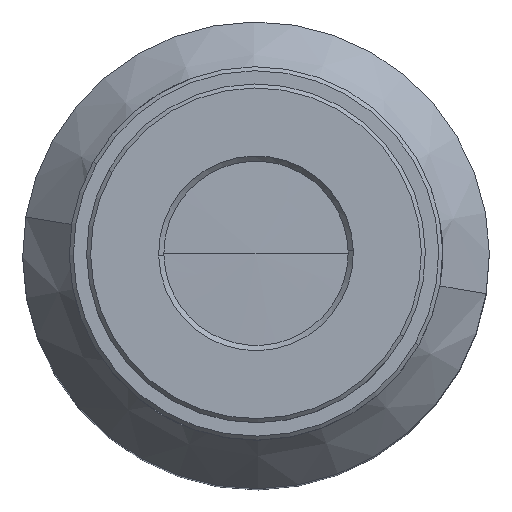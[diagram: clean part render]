
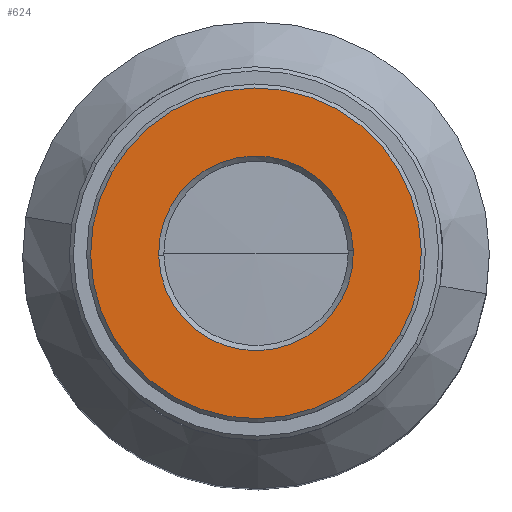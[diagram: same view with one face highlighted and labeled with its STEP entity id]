
A CAD part, top view. The second image highlights one B-rep face of the part: STEP entity #624.
In plain terms, the highlighted planar face has unit normal (0, 0, 1).
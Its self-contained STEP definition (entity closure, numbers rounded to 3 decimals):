
#42 = CIRCLE ( 'NONE', #1463, 7.3 ) ;
#68 = DIRECTION ( 'NONE',  ( 0., 0., -1. ) ) ;
#73 = ORIENTED_EDGE ( 'NONE', *, *, #1201, .T. ) ;
#110 = CARTESIAN_POINT ( 'NONE',  ( 0., 0., 61.125 ) ) ;
#132 = FACE_BOUND ( 'NONE', #1468, .T. ) ;
#198 = ORIENTED_EDGE ( 'NONE', *, *, #756, .T. ) ;
#284 = DIRECTION ( 'NONE',  ( 0., 0., -1. ) ) ;
#285 = CARTESIAN_POINT ( 'NONE',  ( 7.297, 0.2, 61.125 ) ) ;
#317 = CARTESIAN_POINT ( 'NONE',  ( 0., 0., 61.125 ) ) ;
#349 = DIRECTION ( 'NONE',  ( 0., 0., -1. ) ) ;
#357 = AXIS2_PLACEMENT_3D ( 'NONE', #1108, #349, #973 ) ;
#414 = DIRECTION ( 'NONE',  ( -1., -0.027, 0. ) ) ;
#429 = CARTESIAN_POINT ( 'NONE',  ( 10.8, -6.093, 61.125 ) ) ;
#508 = AXIS2_PLACEMENT_3D ( 'NONE', #608, #1605, #1365 ) ;
#535 = EDGE_LOOP ( 'NONE', ( #1116, #843 ) ) ;
#560 = DIRECTION ( 'NONE',  ( -1., -0.027, 0. ) ) ;
#608 = CARTESIAN_POINT ( 'NONE',  ( 0., 0., 61.125 ) ) ;
#624 = ADVANCED_FACE ( 'NONE', ( #132, #1252 ), #1491, .F. ) ;
#652 = VERTEX_POINT ( 'NONE', #285 ) ;
#668 = CARTESIAN_POINT ( 'NONE',  ( 0., 0., 61.125 ) ) ;
#697 = AXIS2_PLACEMENT_3D ( 'NONE', #110, #1614, #1131 ) ;
#756 = EDGE_CURVE ( 'NONE', #1245, #652, #1582, .T. ) ;
#843 = ORIENTED_EDGE ( 'NONE', *, *, #1486, .T. ) ;
#955 = EDGE_CURVE ( 'NONE', #1138, #1299, #1332, .T. ) ;
#973 = DIRECTION ( 'NONE',  ( -1., -0.027, 0. ) ) ;
#982 = AXIS2_PLACEMENT_3D ( 'NONE', #317, #68, #560 ) ;
#1108 = CARTESIAN_POINT ( 'NONE',  ( -0.301, 10.996, 61.125 ) ) ;
#1116 = ORIENTED_EDGE ( 'NONE', *, *, #955, .T. ) ;
#1131 = DIRECTION ( 'NONE',  ( -0.871, 0.491, 0. ) ) ;
#1138 = VERTEX_POINT ( 'NONE', #1146 ) ;
#1146 = CARTESIAN_POINT ( 'NONE',  ( -10.8, 6.093, 61.125 ) ) ;
#1157 = CARTESIAN_POINT ( 'NONE',  ( -7.297, -0.2, 61.125 ) ) ;
#1201 = EDGE_CURVE ( 'NONE', #652, #1245, #42, .T. ) ;
#1245 = VERTEX_POINT ( 'NONE', #1157 ) ;
#1252 = FACE_OUTER_BOUND ( 'NONE', #535, .T. ) ;
#1299 = VERTEX_POINT ( 'NONE', #429 ) ;
#1332 = CIRCLE ( 'NONE', #508, 12.4 ) ;
#1365 = DIRECTION ( 'NONE',  ( -0.871, 0.491, 0. ) ) ;
#1463 = AXIS2_PLACEMENT_3D ( 'NONE', #668, #284, #414 ) ;
#1468 = EDGE_LOOP ( 'NONE', ( #73, #198 ) ) ;
#1486 = EDGE_CURVE ( 'NONE', #1299, #1138, #1597, .T. ) ;
#1491 = PLANE ( 'NONE',  #357 ) ;
#1582 = CIRCLE ( 'NONE', #982, 7.3 ) ;
#1597 = CIRCLE ( 'NONE', #697, 12.4 ) ;
#1605 = DIRECTION ( 'NONE',  ( 0., 0., 1. ) ) ;
#1614 = DIRECTION ( 'NONE',  ( 0., 0., 1. ) ) ;
